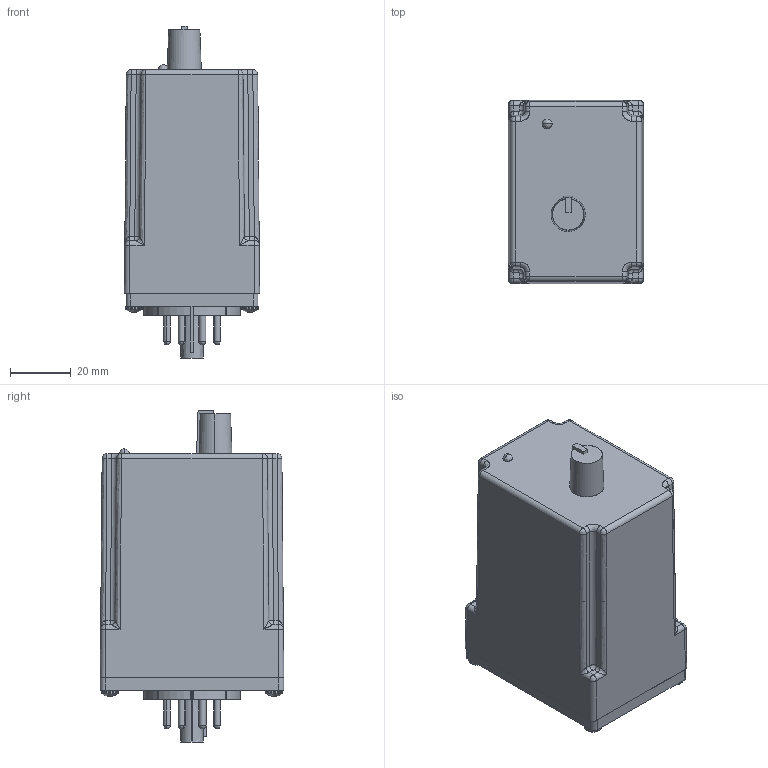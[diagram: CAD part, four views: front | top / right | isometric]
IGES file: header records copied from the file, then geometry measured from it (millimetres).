
Start section: SolidWorks IGES file using analytic representation for surfaces
Global section: file name: C:\Documents and Settings\Joshua\Desktop\eric\090413\PAP.igs; native system: SolidWorks 2007; preprocessor: SolidWorks 2007; author: Joshua; date: 140904.220015; units: inch
Bounding box: 44.45 x 60.33 x 109.09 mm (x, y, z)
Surface area: 29643.3 mm2 (no closed solid volume)
Topology: 0 solids, 0 shells, 691 faces, 8534 edges, 8464 vertices
Faces by surface type: revolution 352, bspline 339
